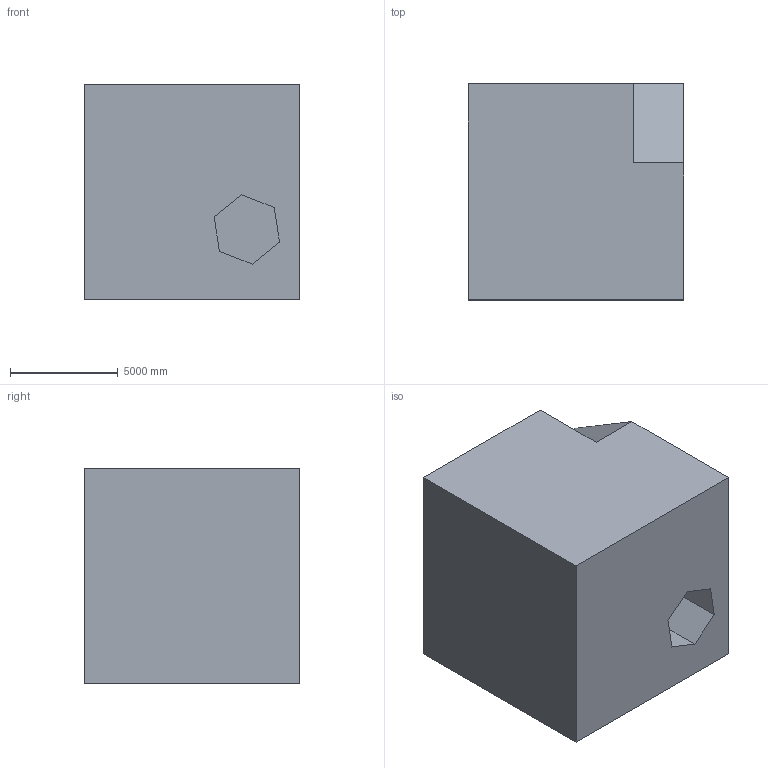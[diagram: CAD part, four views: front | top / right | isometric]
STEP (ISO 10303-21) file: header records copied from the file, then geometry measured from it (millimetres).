
FILE_DESCRIPTION (( 'STEP AP203' ), '1' );
FILE_NAME ('191.STEP', '2022-07-28T13:51:33', ( 'user' ), ( '' ), 'SwSTEP 2.0', 'SolidWorks 2021', '' );
FILE_SCHEMA (( 'CONFIG_CONTROL_DESIGN' ));
Length unit declared in the file: centimetre
Products named in the file (1): 191
Bounding box: 10000 x 10000 x 10000 mm (x, y, z)
Volume: 951783254019.4 mm3; surface area: 651389514.1 mm2
Topology: 1 solids, 1 shells, 15 faces, 36 edges, 24 vertices
Faces by surface type: plane 15
Entity records: 507 total; most frequent: CARTESIAN_POINT 76, ORIENTED_EDGE 72, DIRECTION 68, EDGE_CURVE 36, LINE 36, VECTOR 36, VERTEX_POINT 24, AXIS2_PLACEMENT_3D 16
